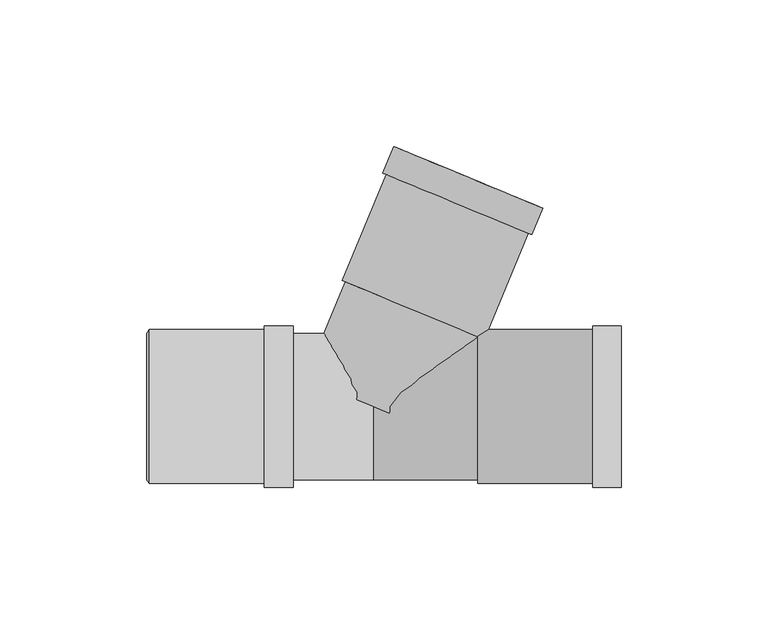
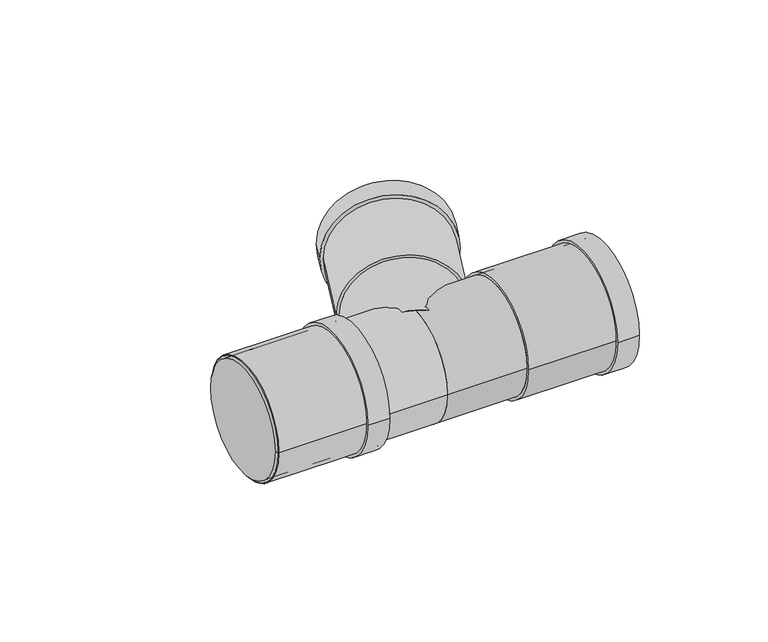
"""IFC4 building model written with IfcOpenShell, lengths in millimetres: pipe fitting geometry, Superdrain HTEA Branch : Superdrain HTEA Branch."""

from ifc_helpers import new_model, si_unit, point, frame, origin, origin_2d, place, context, project, spatial, polyline, circle_curve, trimmed, segment, composite_curve, outline, extrude, source, transform, mapped, element, save
from ifc_brep_helpers import plane_surface, revolved_surface, advanced_brep


def pipe_fitting_09b074f6(model_context):
    return source(origin(), model_context, "Body", "SolidModel", [
        extrude(outline(composite_curve([segment(trimmed(circle_curve(origin_2d(), 26.25), [point((26.25, 0.0))], [point((-26.25, 0.0))], False, "CARTESIAN"), True, "CONTINUOUS"), segment(trimmed(circle_curve(origin_2d(), 26.25), [point((-26.25, 0.0))], [point((26.25, 0.0))], False, "CARTESIAN"), True, "CONTINUOUS")], self_intersect=False), holes=[composite_curve([segment(trimmed(circle_curve(origin_2d(), 25.0), [point((25.0, 0.0))], [point((-25.0, 0.0))], True, "CARTESIAN"), True, "CONTINUOUS"), segment(trimmed(circle_curve(origin_2d(), 25.0), [point((-25.0, 0.0))], [point((25.0, 0.0))], True, "CARTESIAN"), True, "CONTINUOUS")], self_intersect=False)]), frame((-76.3, 0.0, 0.0), z_axis=(1.0, 0.0, 0.0), x_axis=(0.0, 1.0, 0.0)), (0.0, 0.0, 1.0), 49.0),
        extrude(outline(composite_curve([segment(trimmed(circle_curve(origin_2d(), 27.5625), [point((27.5625, 0.0))], [point((-27.5625, 0.0))], False, "CARTESIAN"), True, "CONTINUOUS"), segment(trimmed(circle_curve(origin_2d(), 27.5625), [point((-27.5625, 0.0))], [point((27.5625, 0.0))], False, "CARTESIAN"), True, "CONTINUOUS")], self_intersect=False), holes=[composite_curve([segment(trimmed(circle_curve(origin_2d(), 25.0), [point((25.0, 0.0))], [point((-25.0, 0.0))], True, "CARTESIAN"), True, "CONTINUOUS"), segment(trimmed(circle_curve(origin_2d(), 25.0), [point((-25.0, 0.0))], [point((25.0, 0.0))], True, "CARTESIAN"), True, "CONTINUOUS")], self_intersect=False)]), frame((-37.1, 0.0, 0.0), z_axis=(1.0, 0.0, 0.0), x_axis=(0.0, 1.0, 0.0)), (0.0, 0.0, 1.0), 9.8),
        advanced_brep(
        [(-77.3, 25.0, 0.0), (-77.3, -25.0, 0.0), (-76.3, 26.25, 0.0), (-76.3, -26.25, 0.0)],
        [
            (0, 1, circle_curve(frame((-77.3, 0.0, 0.0), z_axis=(-1.0, 0.0, 0.0), x_axis=(0.0, 1.0, 0.0)), 25.0)),
            (1, 0, circle_curve(frame((-77.3, 0.0, 0.0), z_axis=(-1.0, 0.0, 0.0), x_axis=(0.0, -1.0, 0.0)), 25.0)),
            (2, 3, circle_curve(frame((-76.3, 0.0, 0.0), z_axis=(1.0, 0.0, 0.0), x_axis=(0.0, -1.0, 0.0)), 26.25)),
            (3, 2, circle_curve(frame((-76.3, 0.0, 0.0), z_axis=(1.0, 0.0, 0.0), x_axis=(0.0, 1.0, 0.0)), 26.25)),
            (3, 1),
            (0, 2),
        ],
        [
            plane_surface(frame((-77.3, 0.0, 0.0), z_axis=(-1.0, 0.0, 0.0), x_axis=(0.0, 0.0, -1.0))),
            plane_surface(frame((-76.3, 0.0, 0.0), z_axis=(1.0, 0.0, 0.0), x_axis=(0.0, 0.0, -1.0))),
            revolved_surface(polyline([(-77.3, 25.0, 0.0), (-76.3, 26.25, 0.0)]), (-97.3, 0.0, 0.0), (1.0, 0.0, 0.0)),
            revolved_surface(polyline([(-77.3, -25.0, 0.0), (-76.3, -26.25, 0.0)]), (-97.3, 0.0, 0.0), (1.0, 0.0, 0.0)),
        ],
        [
            (0, [[1, 2]]),
            (1, [[3, 4]]),
            (2, [[-4, 5, -1, 6]]),
            (3, [[-3, -6, -2, -5]]),
        ],
    ),
        extrude(outline(composite_curve([segment(trimmed(circle_curve(origin_2d(), 26.25), [point((-26.25, 0.0))], [point((26.25, 0.0))], False, "CARTESIAN"), True, "CONTINUOUS"), segment(trimmed(circle_curve(origin_2d(), 26.25), [point((26.25, 0.0))], [point((-26.25, 0.0))], False, "CARTESIAN"), True, "CONTINUOUS")], self_intersect=False), holes=[composite_curve([segment(trimmed(circle_curve(origin_2d(), 25.0), [point((25.0, 0.0))], [point((-25.0, 0.0))], True, "CARTESIAN"), True, "CONTINUOUS"), segment(trimmed(circle_curve(origin_2d(), 25.0), [point((-25.0, 0.0))], [point((25.0, 0.0))], True, "CARTESIAN"), True, "CONTINUOUS")], self_intersect=False)]), frame((35.7, 0.0, 0.0), z_axis=(1.0, 0.0, 0.0), x_axis=(0.0, 1.0, 0.0)), (0.0, 0.0, 1.0), 49.0),
        extrude(outline(composite_curve([segment(trimmed(circle_curve(origin_2d(), 27.5625), [point((27.5625, 0.0))], [point((-27.5625, 0.0))], False, "CARTESIAN"), True, "CONTINUOUS"), segment(trimmed(circle_curve(origin_2d(), 27.5625), [point((-27.5625, 0.0))], [point((27.5625, 0.0))], False, "CARTESIAN"), True, "CONTINUOUS")], self_intersect=False), holes=[composite_curve([segment(trimmed(circle_curve(origin_2d(), 25.0), [point((25.0, 0.0))], [point((-25.0, 0.0))], True, "CARTESIAN"), True, "CONTINUOUS"), segment(trimmed(circle_curve(origin_2d(), 25.0), [point((-25.0, 0.0))], [point((25.0, 0.0))], True, "CARTESIAN"), True, "CONTINUOUS")], self_intersect=False)]), frame((74.9, 0.0, 0.0), z_axis=(1.0, 0.0, 0.0), x_axis=(0.0, 1.0, 0.0)), (0.0, 0.0, 1.0), 9.8),
        extrude(outline(composite_curve([segment(trimmed(circle_curve(origin_2d(), 25.0), [point((0.0, 25.0))], [point((0.0, -25.0))], False, "CARTESIAN"), True, "CONTINUOUS"), segment(trimmed(circle_curve(origin_2d(), 25.0), [point((0.0, -25.0))], [point((0.0, 25.0))], False, "CARTESIAN"), True, "CONTINUOUS")], self_intersect=False)), frame((0.0, 0.0, 0.0), z_axis=(0.3826834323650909, 0.9238795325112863, 0.0), x_axis=(0.0, 0.0, 1.0)), (0.0, 0.0, 1.0), 35.7),
        extrude(outline(composite_curve([segment(trimmed(circle_curve(origin_2d(), 25.0), [point((25.0, 0.0))], [point((-25.0, 0.0))], False, "CARTESIAN"), True, "CONTINUOUS"), segment(trimmed(circle_curve(origin_2d(), 25.0), [point((-25.0, 0.0))], [point((25.0, 0.0))], False, "CARTESIAN"), True, "CONTINUOUS")], self_intersect=False)), frame((-76.3, 0.0, 0.0), z_axis=(1.0, 0.0, 0.0), x_axis=(0.0, 1.0, 0.0)), (0.0, 0.0, 1.0), 76.3),
        extrude(outline(composite_curve([segment(trimmed(circle_curve(origin_2d(), 25.0), [point((-25.0, 0.0))], [point((25.0, 0.0))], False, "CARTESIAN"), True, "CONTINUOUS"), segment(trimmed(circle_curve(origin_2d(), 25.0), [point((25.0, 0.0))], [point((-25.0, 0.0))], False, "CARTESIAN"), True, "CONTINUOUS")], self_intersect=False)), frame((0.0, 0.0, 0.0), z_axis=(1.0, 0.0, 0.0), x_axis=(0.0, 1.0, 0.0)), (0.0, 0.0, 1.0), 35.7),
        extrude(outline(composite_curve([segment(trimmed(circle_curve(origin_2d(), 27.5625), [point((0.0, 27.5625))], [point((0.0, -27.5625))], False, "CARTESIAN"), True, "CONTINUOUS"), segment(trimmed(circle_curve(origin_2d(), 27.5625), [point((0.0, -27.5625))], [point((0.0, 27.5625))], False, "CARTESIAN"), True, "CONTINUOUS")], self_intersect=False), holes=[composite_curve([segment(trimmed(circle_curve(origin_2d(), 25.0), [point((0.0, 25.0))], [point((0.0, -25.0))], True, "CARTESIAN"), True, "CONTINUOUS"), segment(trimmed(circle_curve(origin_2d(), 25.0), [point((0.0, -25.0))], [point((0.0, 25.0))], True, "CARTESIAN"), True, "CONTINUOUS")], self_intersect=False)]), frame((28.6629891, 69.198577, 0.0), z_axis=(0.38268343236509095, 0.9238795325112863, 0.0), x_axis=(0.0, 0.0, 1.0)), (0.0, 0.0, 1.0), 9.8),
        extrude(outline(composite_curve([segment(trimmed(circle_curve(origin_2d(), 26.25), [point((0.0, 26.2500001))], [point((0.0, -26.25))], False, "CARTESIAN"), True, "CONTINUOUS"), segment(trimmed(circle_curve(origin_2d(), 26.25), [point((0.0, -26.25))], [point((0.0, 26.2500001))], False, "CARTESIAN"), True, "CONTINUOUS")], self_intersect=False), holes=[composite_curve([segment(trimmed(circle_curve(origin_2d(), 25.0), [point((0.0, 25.0))], [point((0.0, -25.0))], True, "CARTESIAN"), True, "CONTINUOUS"), segment(trimmed(circle_curve(origin_2d(), 25.0), [point((0.0, -25.0))], [point((0.0, 25.0))], True, "CARTESIAN"), True, "CONTINUOUS")], self_intersect=False)]), frame((13.6617985, 32.9824993, 0.0), z_axis=(0.38268343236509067, 0.9238795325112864, 0.0), x_axis=(0.0, 0.0, 1.0)), (0.0, 0.0, 1.0), 49.0),
    ])


if __name__ == "__main__":
    model = new_model("IFC4")
    model_context = context("Model", 3, world=origin())
    ifc_project = project(units=[si_unit("LENGTHUNIT", "METRE", prefix="MILLI")], contexts=[model_context])
    site = spatial("IfcSite", under=ifc_project)
    building = spatial("IfcBuilding", under=site)
    placement = place(None, origin())
    pipe_fitting_shape = pipe_fitting_09b074f6(model_context)
    element("IfcPipeFitting", 1, ObjectType="Superdrain HTEA Branch : Superdrain HTEA Branch", at=placement, inside=building, context=model_context, shape_type="MappedRepresentation", body=[
        mapped(pipe_fitting_shape, transform((0.0, 0.0, 0.0), x_axis=(1.0, 0.0, 0.0), y_axis=(0.0, 1.0, 0.0), z_axis=(0.0, 0.0, 1.0))),
    ])
    save(model, "model.ifc")
